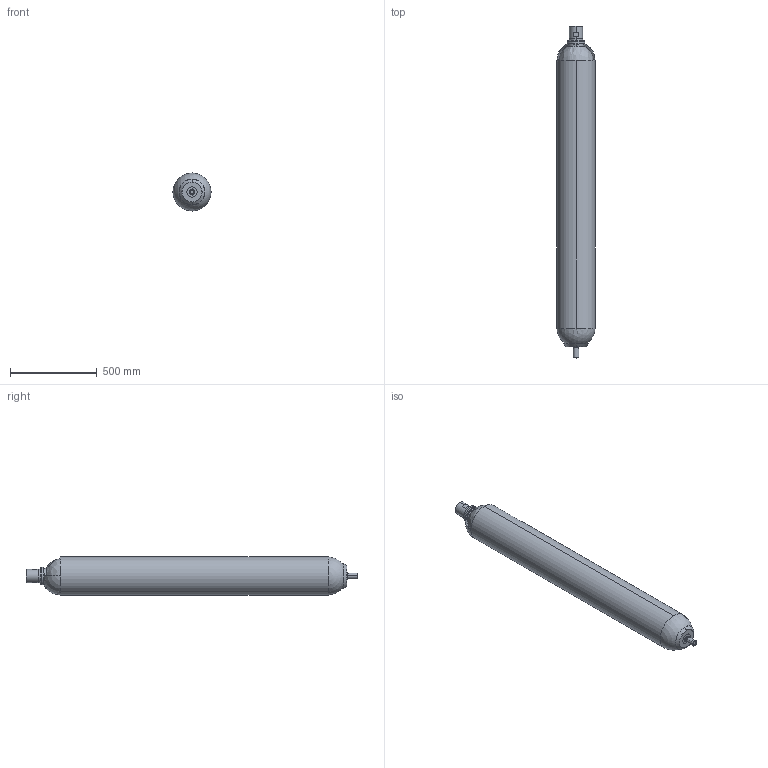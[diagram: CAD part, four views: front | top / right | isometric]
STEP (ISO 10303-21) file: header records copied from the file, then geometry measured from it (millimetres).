
FILE_DESCRIPTION((''),'2;1');
FILE_NAME('EHV_50_330_90.stp','2013-03-15T14:24:48',(''),(''),'Mechanical Desktop 2009','Mechanical Desktop 2009',', , ');
FILE_SCHEMA(('CONFIG_CONTROL_DESIGN'));
Length unit declared in the file: millimetre
Products named in the file (53): AD110767-01125; EC102958-00200; EC102958-00200A; BP102851-00200; BOUCHON DE PROTECTION; BOUCHON PLASTIQUE; PF110019-05200; PF110019-05200A; PF110019-05200|AVE_RENDER; PF110019-05200|AVE_GLOBAL; CA110199-00190; CA110199-00190A; VE110419-00225; PM100108-00025A; PM100108-00025; CI100114-00025; CI100114-00025A; PC100109-00025A; PC100109-00025; CS110404-00225; CV110400-00200; PIECE1; CV110400-00200|GABARIT; CS110404-00025; CS110404-00025A; VA102396-01626; BOUCHON DE VALVE; BO100759-02600A; BO100759-02600; JP101164-00020; JOINT PLAT; VALVE AZOTE; RESSORT; RE100758-01200; JOINT; JP102452-00026; EB102133-01600V1; EB102133-01600V1A; JOINT TORIQUE; JT101174-00023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
Assembly tree (75 placements, depth 5):
  AD110767-01125
    EC102958-00200
      EC102958-00200A
    BP102851-00200
      BOUCHON DE PROTECTION
      BOUCHON PLASTIQUE
    PF110019-05200
      PF110019-05200A
      PF110019-05200|AVE_RENDER  x8
      PF110019-05200|AVE_GLOBAL
    CA110199-00190
      CA110199-00190A
    VE110419-00225
      PM100108-00025A
        PM100108-00025
      CI100114-00025
        CI100114-00025A
      PC100109-00025A
        PC100109-00025
      CS110404-00225
        CV110400-00200
          PIECE1
          CV110400-00200|GABARIT
        CS110404-00025
          CS110404-00025A
    VA102396-01626
      BOUCHON DE VALVE
        BO100759-02600A
          BO100759-02600
        JP101164-00020
          JOINT PLAT
      VALVE AZOTE
        RESSORT
          RE100758-01200
        JOINT
          JP102452-00026
        EB102133-01600V1
          EB102133-01600V1A
        JOINT TORIQUE
          JT101174-00023
        EMBOUT
          EB102132-01600
        PISTON
          PI100756-01700
        ET106134-02600A
          ET106134-02600
        VA102135|AVE_RENDER  x16
        VA102135|AVE_GLOBAL  x2
    BC110298-00220
      BE105544-01700
      EC100990-01200
      BM110296-01700
        CB110082-01700
Bounding box: 219.1 x 1912.7 x 219.1 mm (x, y, z)
Volume: 8033488.4 mm3; surface area: 4589722.2 mm2
Topology: 28 solids, 28 shells, 902 faces, 2121 edges, 1289 vertices
Faces by surface type: cylinder 265, bspline 260, plane 177, cone 154, torus 40, sphere 6
Full cylindrical faces by diameter (mm): 15.875 x3
Entity records: 49527 total; most frequent: CARTESIAN_POINT 29465, ORIENTED_EDGE 4198, DIRECTION 3715, EDGE_CURVE 2099, AXIS2_PLACEMENT_3D 1608, VERTEX_POINT 1285, EDGE_LOOP 1014, FACE_OUTER_BOUND 902
